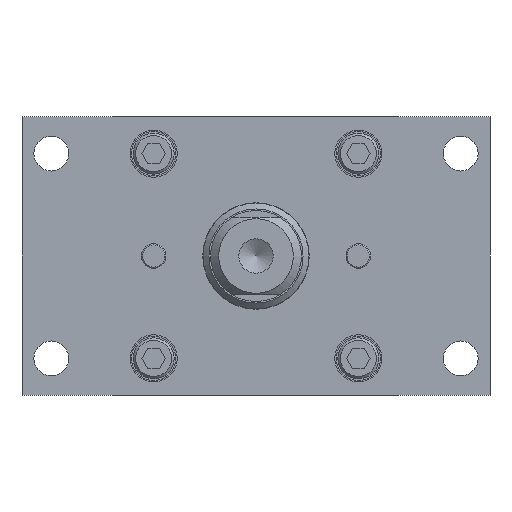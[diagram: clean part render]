
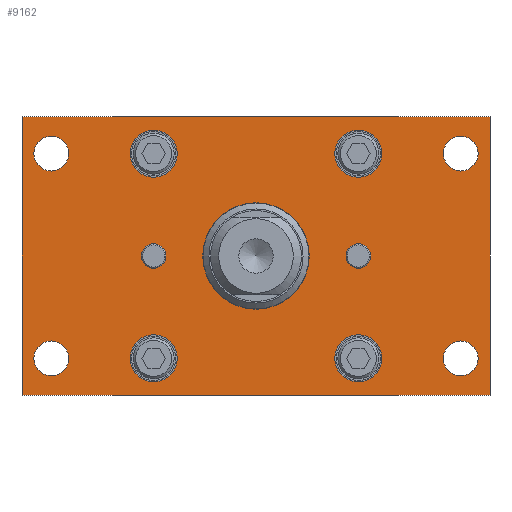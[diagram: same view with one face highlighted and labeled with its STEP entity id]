
A CAD part, front view. The second image highlights one B-rep face of the part: STEP entity #9162.
In plain terms, the highlighted planar face has unit normal (0, -1, 0) as drawn and (0, 0, -1) by its records, which use the part's own axes.
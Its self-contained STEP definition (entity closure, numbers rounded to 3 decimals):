
#272=FACE_BOUND('',#2202,.T.);
#273=FACE_BOUND('',#2203,.T.);
#274=FACE_BOUND('',#2204,.T.);
#275=FACE_BOUND('',#2205,.T.);
#276=FACE_BOUND('',#2206,.T.);
#277=FACE_BOUND('',#2207,.T.);
#278=FACE_BOUND('',#2208,.T.);
#279=FACE_BOUND('',#2209,.T.);
#280=FACE_BOUND('',#2210,.T.);
#281=FACE_BOUND('',#2211,.T.);
#282=FACE_BOUND('',#2212,.T.);
#863=PLANE('',#10334);
#1508=FACE_OUTER_BOUND('',#2201,.T.);
#2201=EDGE_LOOP('',(#8183,#8184,#8185,#8186));
#2202=EDGE_LOOP('',(#8187));
#2203=EDGE_LOOP('',(#8188,#8189));
#2204=EDGE_LOOP('',(#8190,#8191));
#2205=EDGE_LOOP('',(#8192,#8193));
#2206=EDGE_LOOP('',(#8194,#8195));
#2207=EDGE_LOOP('',(#8196,#8197));
#2208=EDGE_LOOP('',(#8198,#8199));
#2209=EDGE_LOOP('',(#8200,#8201));
#2210=EDGE_LOOP('',(#8202,#8203));
#2211=EDGE_LOOP('',(#8204,#8205));
#2212=EDGE_LOOP('',(#8206,#8207));
#3104=LINE('',#15564,#3974);
#3108=LINE('',#15572,#3978);
#3111=LINE('',#15578,#3981);
#3114=LINE('',#15583,#3984);
#3974=VECTOR('',#13006,10.);
#3978=VECTOR('',#13012,10.);
#3981=VECTOR('',#13017,10.);
#3984=VECTOR('',#13022,10.);
#4117=CIRCLE('',#10251,12.992);
#4121=CIRCLE('',#10257,3.);
#4122=CIRCLE('',#10258,3.);
#4124=CIRCLE('',#10261,3.);
#4125=CIRCLE('',#10262,3.);
#4132=CIRCLE('',#10272,4.25);
#4133=CIRCLE('',#10273,4.25);
#4135=CIRCLE('',#10276,4.25);
#4136=CIRCLE('',#10277,4.25);
#4138=CIRCLE('',#10280,4.25);
#4139=CIRCLE('',#10281,4.25);
#4141=CIRCLE('',#10284,4.25);
#4142=CIRCLE('',#10285,4.25);
#4150=CIRCLE('',#10298,5.75);
#4151=CIRCLE('',#10299,5.75);
#4156=CIRCLE('',#10307,5.75);
#4157=CIRCLE('',#10308,5.75);
#4162=CIRCLE('',#10316,5.75);
#4163=CIRCLE('',#10317,5.75);
#4168=CIRCLE('',#10325,5.75);
#4169=CIRCLE('',#10326,5.75);
#4699=VERTEX_POINT('',#15411);
#4703=VERTEX_POINT('',#15422);
#4704=VERTEX_POINT('',#15423);
#4706=VERTEX_POINT('',#15430);
#4707=VERTEX_POINT('',#15431);
#4714=VERTEX_POINT('',#15451);
#4715=VERTEX_POINT('',#15452);
#4717=VERTEX_POINT('',#15459);
#4718=VERTEX_POINT('',#15460);
#4720=VERTEX_POINT('',#15467);
#4721=VERTEX_POINT('',#15468);
#4723=VERTEX_POINT('',#15475);
#4724=VERTEX_POINT('',#15476);
#4732=VERTEX_POINT('',#15501);
#4733=VERTEX_POINT('',#15502);
#4738=VERTEX_POINT('',#15518);
#4739=VERTEX_POINT('',#15519);
#4744=VERTEX_POINT('',#15535);
#4745=VERTEX_POINT('',#15536);
#4750=VERTEX_POINT('',#15552);
#4751=VERTEX_POINT('',#15553);
#4753=VERTEX_POINT('',#15562);
#4754=VERTEX_POINT('',#15563);
#4757=VERTEX_POINT('',#15571);
#4759=VERTEX_POINT('',#15577);
#5853=EDGE_CURVE('',#4699,#4699,#4117,.T.);
#5858=EDGE_CURVE('',#4703,#4704,#4121,.T.);
#5859=EDGE_CURVE('',#4704,#4703,#4122,.T.);
#5862=EDGE_CURVE('',#4706,#4707,#4124,.T.);
#5863=EDGE_CURVE('',#4707,#4706,#4125,.T.);
#5872=EDGE_CURVE('',#4714,#4715,#4132,.T.);
#5873=EDGE_CURVE('',#4715,#4714,#4133,.T.);
#5876=EDGE_CURVE('',#4717,#4718,#4135,.T.);
#5877=EDGE_CURVE('',#4718,#4717,#4136,.T.);
#5880=EDGE_CURVE('',#4720,#4721,#4138,.T.);
#5881=EDGE_CURVE('',#4721,#4720,#4139,.T.);
#5884=EDGE_CURVE('',#4723,#4724,#4141,.T.);
#5885=EDGE_CURVE('',#4724,#4723,#4142,.T.);
#5896=EDGE_CURVE('',#4732,#4733,#4150,.T.);
#5897=EDGE_CURVE('',#4733,#4732,#4151,.T.);
#5904=EDGE_CURVE('',#4738,#4739,#4156,.T.);
#5905=EDGE_CURVE('',#4739,#4738,#4157,.T.);
#5912=EDGE_CURVE('',#4744,#4745,#4162,.T.);
#5913=EDGE_CURVE('',#4745,#4744,#4163,.T.);
#5920=EDGE_CURVE('',#4750,#4751,#4168,.T.);
#5921=EDGE_CURVE('',#4751,#4750,#4169,.T.);
#5925=EDGE_CURVE('',#4753,#4754,#3104,.T.);
#5929=EDGE_CURVE('',#4757,#4753,#3108,.T.);
#5932=EDGE_CURVE('',#4759,#4757,#3111,.T.);
#5935=EDGE_CURVE('',#4754,#4759,#3114,.T.);
#8183=ORIENTED_EDGE('',*,*,#5935,.F.);
#8184=ORIENTED_EDGE('',*,*,#5925,.F.);
#8185=ORIENTED_EDGE('',*,*,#5929,.F.);
#8186=ORIENTED_EDGE('',*,*,#5932,.F.);
#8187=ORIENTED_EDGE('',*,*,#5853,.T.);
#8188=ORIENTED_EDGE('',*,*,#5858,.T.);
#8189=ORIENTED_EDGE('',*,*,#5859,.T.);
#8190=ORIENTED_EDGE('',*,*,#5862,.T.);
#8191=ORIENTED_EDGE('',*,*,#5863,.T.);
#8192=ORIENTED_EDGE('',*,*,#5872,.T.);
#8193=ORIENTED_EDGE('',*,*,#5873,.T.);
#8194=ORIENTED_EDGE('',*,*,#5876,.T.);
#8195=ORIENTED_EDGE('',*,*,#5877,.T.);
#8196=ORIENTED_EDGE('',*,*,#5880,.T.);
#8197=ORIENTED_EDGE('',*,*,#5881,.T.);
#8198=ORIENTED_EDGE('',*,*,#5884,.T.);
#8199=ORIENTED_EDGE('',*,*,#5885,.T.);
#8200=ORIENTED_EDGE('',*,*,#5896,.T.);
#8201=ORIENTED_EDGE('',*,*,#5897,.T.);
#8202=ORIENTED_EDGE('',*,*,#5904,.T.);
#8203=ORIENTED_EDGE('',*,*,#5905,.T.);
#8204=ORIENTED_EDGE('',*,*,#5912,.T.);
#8205=ORIENTED_EDGE('',*,*,#5913,.T.);
#8206=ORIENTED_EDGE('',*,*,#5920,.T.);
#8207=ORIENTED_EDGE('',*,*,#5921,.T.);
#9162=ADVANCED_FACE('',(#1508,#272,#273,#274,#275,#276,#277,#278,#279,#280,
#281,#282),#863,.F.);
#10251=AXIS2_PLACEMENT_3D('',#15412,#12830,#12831);
#10257=AXIS2_PLACEMENT_3D('',#15424,#12843,#12844);
#10258=AXIS2_PLACEMENT_3D('',#15425,#12845,#12846);
#10261=AXIS2_PLACEMENT_3D('',#15432,#12852,#12853);
#10262=AXIS2_PLACEMENT_3D('',#15433,#12854,#12855);
#10272=AXIS2_PLACEMENT_3D('',#15453,#12876,#12877);
#10273=AXIS2_PLACEMENT_3D('',#15454,#12878,#12879);
#10276=AXIS2_PLACEMENT_3D('',#15461,#12885,#12886);
#10277=AXIS2_PLACEMENT_3D('',#15462,#12887,#12888);
#10280=AXIS2_PLACEMENT_3D('',#15469,#12894,#12895);
#10281=AXIS2_PLACEMENT_3D('',#15470,#12896,#12897);
#10284=AXIS2_PLACEMENT_3D('',#15477,#12903,#12904);
#10285=AXIS2_PLACEMENT_3D('',#15478,#12905,#12906);
#10298=AXIS2_PLACEMENT_3D('',#15503,#12934,#12935);
#10299=AXIS2_PLACEMENT_3D('',#15504,#12936,#12937);
#10307=AXIS2_PLACEMENT_3D('',#15520,#12954,#12955);
#10308=AXIS2_PLACEMENT_3D('',#15521,#12956,#12957);
#10316=AXIS2_PLACEMENT_3D('',#15537,#12974,#12975);
#10317=AXIS2_PLACEMENT_3D('',#15538,#12976,#12977);
#10325=AXIS2_PLACEMENT_3D('',#15554,#12994,#12995);
#10326=AXIS2_PLACEMENT_3D('',#15555,#12996,#12997);
#10334=AXIS2_PLACEMENT_3D('',#15586,#13026,#13027);
#12830=DIRECTION('center_axis',(0.,0.,1.));
#12831=DIRECTION('ref_axis',(1.,0.,0.));
#12843=DIRECTION('center_axis',(0.,0.,1.));
#12844=DIRECTION('ref_axis',(-1.,0.,0.));
#12845=DIRECTION('center_axis',(0.,0.,1.));
#12846=DIRECTION('ref_axis',(-1.,0.,0.));
#12852=DIRECTION('center_axis',(0.,0.,1.));
#12853=DIRECTION('ref_axis',(-1.,0.,0.));
#12854=DIRECTION('center_axis',(0.,0.,1.));
#12855=DIRECTION('ref_axis',(-1.,0.,0.));
#12876=DIRECTION('center_axis',(0.,0.,1.));
#12877=DIRECTION('ref_axis',(-1.,0.,0.));
#12878=DIRECTION('center_axis',(0.,0.,1.));
#12879=DIRECTION('ref_axis',(-1.,0.,0.));
#12885=DIRECTION('center_axis',(0.,0.,1.));
#12886=DIRECTION('ref_axis',(-1.,0.,0.));
#12887=DIRECTION('center_axis',(0.,0.,1.));
#12888=DIRECTION('ref_axis',(-1.,0.,0.));
#12894=DIRECTION('center_axis',(0.,0.,1.));
#12895=DIRECTION('ref_axis',(-1.,0.,0.));
#12896=DIRECTION('center_axis',(0.,0.,1.));
#12897=DIRECTION('ref_axis',(-1.,0.,0.));
#12903=DIRECTION('center_axis',(0.,0.,1.));
#12904=DIRECTION('ref_axis',(-1.,0.,0.));
#12905=DIRECTION('center_axis',(0.,0.,1.));
#12906=DIRECTION('ref_axis',(-1.,0.,0.));
#12934=DIRECTION('center_axis',(0.,0.,1.));
#12935=DIRECTION('ref_axis',(-1.,0.,0.));
#12936=DIRECTION('center_axis',(0.,0.,1.));
#12937=DIRECTION('ref_axis',(-1.,0.,0.));
#12954=DIRECTION('center_axis',(0.,0.,1.));
#12955=DIRECTION('ref_axis',(-1.,0.,0.));
#12956=DIRECTION('center_axis',(0.,0.,1.));
#12957=DIRECTION('ref_axis',(-1.,0.,0.));
#12974=DIRECTION('center_axis',(0.,0.,1.));
#12975=DIRECTION('ref_axis',(-1.,0.,0.));
#12976=DIRECTION('center_axis',(0.,0.,1.));
#12977=DIRECTION('ref_axis',(-1.,0.,0.));
#12994=DIRECTION('center_axis',(0.,0.,1.));
#12995=DIRECTION('ref_axis',(-1.,0.,0.));
#12996=DIRECTION('center_axis',(0.,0.,1.));
#12997=DIRECTION('ref_axis',(-1.,0.,0.));
#13006=DIRECTION('',(-1.,0.,0.));
#13012=DIRECTION('',(0.,1.,0.));
#13017=DIRECTION('',(1.,0.,0.));
#13022=DIRECTION('',(0.,-1.,0.));
#13026=DIRECTION('center_axis',(0.,0.,1.));
#13027=DIRECTION('ref_axis',(1.,0.,0.));
#15411=CARTESIAN_POINT('',(-12.992,0.,0.));
#15412=CARTESIAN_POINT('Origin',(0.,0.,0.));
#15422=CARTESIAN_POINT('',(-28.,0.,0.));
#15423=CARTESIAN_POINT('',(-22.,0.,0.));
#15424=CARTESIAN_POINT('Origin',(-25.,0.,0.));
#15425=CARTESIAN_POINT('Origin',(-25.,0.,0.));
#15430=CARTESIAN_POINT('',(22.,0.,0.));
#15431=CARTESIAN_POINT('',(28.,0.,0.));
#15432=CARTESIAN_POINT('Origin',(25.,0.,0.));
#15433=CARTESIAN_POINT('Origin',(25.,0.,0.));
#15451=CARTESIAN_POINT('',(45.75,25.,0.));
#15452=CARTESIAN_POINT('',(54.25,25.,0.));
#15453=CARTESIAN_POINT('Origin',(50.,25.,0.));
#15454=CARTESIAN_POINT('Origin',(50.,25.,0.));
#15459=CARTESIAN_POINT('',(-54.25,-25.,0.));
#15460=CARTESIAN_POINT('',(-45.75,-25.,0.));
#15461=CARTESIAN_POINT('Origin',(-50.,-25.,0.));
#15462=CARTESIAN_POINT('Origin',(-50.,-25.,0.));
#15467=CARTESIAN_POINT('',(-54.25,25.,0.));
#15468=CARTESIAN_POINT('',(-45.75,25.,0.));
#15469=CARTESIAN_POINT('Origin',(-50.,25.,0.));
#15470=CARTESIAN_POINT('Origin',(-50.,25.,0.));
#15475=CARTESIAN_POINT('',(45.75,-25.,0.));
#15476=CARTESIAN_POINT('',(54.25,-25.,0.));
#15477=CARTESIAN_POINT('Origin',(50.,-25.,0.));
#15478=CARTESIAN_POINT('Origin',(50.,-25.,0.));
#15501=CARTESIAN_POINT('',(19.25,25.,0.));
#15502=CARTESIAN_POINT('',(30.75,25.,0.));
#15503=CARTESIAN_POINT('Origin',(25.,25.,0.));
#15504=CARTESIAN_POINT('Origin',(25.,25.,0.));
#15518=CARTESIAN_POINT('',(-30.75,-25.,0.));
#15519=CARTESIAN_POINT('',(-19.25,-25.,0.));
#15520=CARTESIAN_POINT('Origin',(-25.,-25.,0.));
#15521=CARTESIAN_POINT('Origin',(-25.,-25.,0.));
#15535=CARTESIAN_POINT('',(19.25,-25.,0.));
#15536=CARTESIAN_POINT('',(30.75,-25.,0.));
#15537=CARTESIAN_POINT('Origin',(25.,-25.,0.));
#15538=CARTESIAN_POINT('Origin',(25.,-25.,0.));
#15552=CARTESIAN_POINT('',(-30.75,25.,0.));
#15553=CARTESIAN_POINT('',(-19.25,25.,0.));
#15554=CARTESIAN_POINT('Origin',(-25.,25.,0.));
#15555=CARTESIAN_POINT('Origin',(-25.,25.,0.));
#15562=CARTESIAN_POINT('',(57.15,34.,0.));
#15563=CARTESIAN_POINT('',(-57.15,34.,0.));
#15564=CARTESIAN_POINT('',(57.15,34.,0.));
#15571=CARTESIAN_POINT('',(57.15,-34.,0.));
#15572=CARTESIAN_POINT('',(57.15,-34.,0.));
#15577=CARTESIAN_POINT('',(-57.15,-34.,0.));
#15578=CARTESIAN_POINT('',(-57.15,-34.,0.));
#15583=CARTESIAN_POINT('',(-57.15,34.,0.));
#15586=CARTESIAN_POINT('Origin',(0.,0.,
0.));
